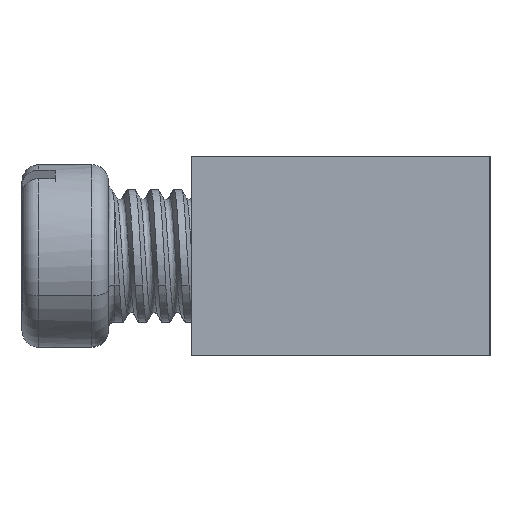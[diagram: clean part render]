
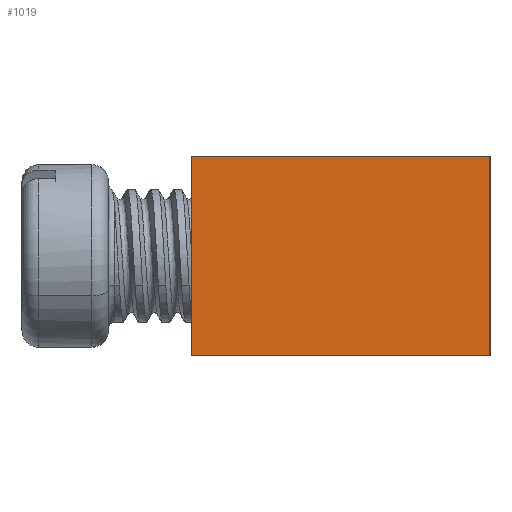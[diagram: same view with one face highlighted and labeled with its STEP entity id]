
A CAD part, left-side view. The second image highlights one B-rep face of the part: STEP entity #1019.
In plain terms, the highlighted planar face has unit normal (-1, 0, 0).
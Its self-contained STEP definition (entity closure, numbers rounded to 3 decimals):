
#295 = VERTEX_POINT ( 'NONE', #1779 ) ;
#336 = LINE ( 'NONE', #2903, #5114 ) ;
#464 = CARTESIAN_POINT ( 'NONE',  ( 0., 0., -6. ) ) ;
#660 = CARTESIAN_POINT ( 'NONE',  ( 0., 9., 0. ) ) ;
#766 = FACE_OUTER_BOUND ( 'NONE', #3528, .T. ) ;
#853 = AXIS2_PLACEMENT_3D ( 'NONE', #3732, #3267, #4660 ) ;
#1019 = ADVANCED_FACE ( 'NONE', ( #766 ), #4196, .T. ) ;
#1314 = VECTOR ( 'NONE', #1462, 1000. ) ;
#1462 = DIRECTION ( 'NONE',  ( 0., 0., 1. ) ) ;
#1779 = CARTESIAN_POINT ( 'NONE',  ( 0., 9., -6. ) ) ;
#1844 = CARTESIAN_POINT ( 'NONE',  ( 0., 0., 0. ) ) ;
#1906 = EDGE_CURVE ( 'NONE', #2114, #3300, #336, .T. ) ;
#1927 = DIRECTION ( 'NONE',  ( 0., -1., 0. ) ) ;
#2114 = VERTEX_POINT ( 'NONE', #660 ) ;
#2314 = EDGE_CURVE ( 'NONE', #3936, #3300, #2383, .T. ) ;
#2383 = LINE ( 'NONE', #464, #5879 ) ;
#2671 = LINE ( 'NONE', #3708, #3584 ) ;
#2756 = ORIENTED_EDGE ( 'NONE', *, *, #1906, .F. ) ;
#2903 = CARTESIAN_POINT ( 'NONE',  ( 0., 0., 0. ) ) ;
#3267 = DIRECTION ( 'NONE',  ( -1., 0., 0. ) ) ;
#3300 = VERTEX_POINT ( 'NONE', #1844 ) ;
#3509 = ORIENTED_EDGE ( 'NONE', *, *, #2314, .T. ) ;
#3528 = EDGE_LOOP ( 'NONE', ( #2756, #5404, #5873, #3509 ) ) ;
#3584 = VECTOR ( 'NONE', #1927, 1000. ) ;
#3649 = EDGE_CURVE ( 'NONE', #295, #3936, #2671, .T. ) ;
#3708 = CARTESIAN_POINT ( 'NONE',  ( 0., 0., -6. ) ) ;
#3710 = DIRECTION ( 'NONE',  ( 0., 0., 1. ) ) ;
#3732 = CARTESIAN_POINT ( 'NONE',  ( 0., 0., -6. ) ) ;
#3761 = CARTESIAN_POINT ( 'NONE',  ( 0., 0., -6. ) ) ;
#3780 = LINE ( 'NONE', #4684, #1314 ) ;
#3936 = VERTEX_POINT ( 'NONE', #3761 ) ;
#4196 = PLANE ( 'NONE',  #853 ) ;
#4660 = DIRECTION ( 'NONE',  ( 0., 0., 1. ) ) ;
#4684 = CARTESIAN_POINT ( 'NONE',  ( 0., 9., -6. ) ) ;
#4697 = EDGE_CURVE ( 'NONE', #295, #2114, #3780, .T. ) ;
#5114 = VECTOR ( 'NONE', #5150, 1000. ) ;
#5150 = DIRECTION ( 'NONE',  ( 0., -1., 0. ) ) ;
#5404 = ORIENTED_EDGE ( 'NONE', *, *, #4697, .F. ) ;
#5873 = ORIENTED_EDGE ( 'NONE', *, *, #3649, .T. ) ;
#5879 = VECTOR ( 'NONE', #3710, 1000. ) ;
